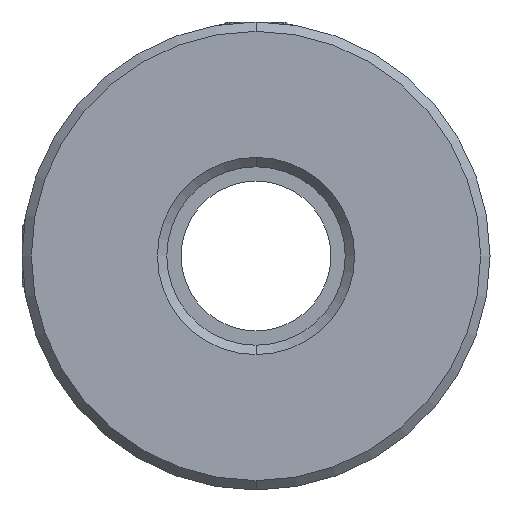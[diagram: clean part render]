
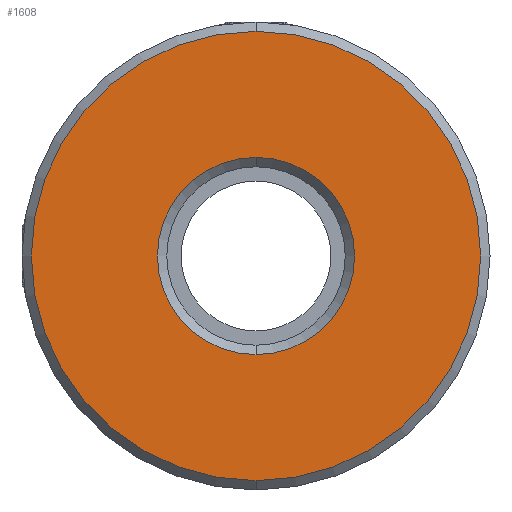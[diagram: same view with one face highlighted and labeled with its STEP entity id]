
A CAD part, front view. The second image highlights one B-rep face of the part: STEP entity #1608.
In plain terms, the highlighted planar face has unit normal (0, -1, 0).
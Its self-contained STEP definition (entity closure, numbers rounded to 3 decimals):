
#42 = EDGE_CURVE ( 'NONE', #338, #3653, #3149, .T. ) ;
#229 = DIRECTION ( 'NONE',  ( 0., 0., 1. ) ) ;
#338 = VERTEX_POINT ( 'NONE', #1149 ) ;
#518 = AXIS2_PLACEMENT_3D ( 'NONE', #2099, #2453, #3610 ) ;
#632 = CIRCLE ( 'NONE', #518, 5.265 ) ;
#666 = DIRECTION ( 'NONE',  ( 0., 1., 0. ) ) ;
#704 = FACE_BOUND ( 'NONE', #1748, .T. ) ;
#746 = VERTEX_POINT ( 'NONE', #1060 ) ;
#749 = CARTESIAN_POINT ( 'NONE',  ( -10.188, -0.277, 12.046 ) ) ;
#766 = CARTESIAN_POINT ( 'NONE',  ( -10.188, -0.277, 5.311 ) ) ;
#810 = ORIENTED_EDGE ( 'NONE', *, *, #42, .T. ) ;
#824 = EDGE_CURVE ( 'NONE', #746, #2508, #3321, .T. ) ;
#1060 = CARTESIAN_POINT ( 'NONE',  ( -10.188, -0.277, -5.219 ) ) ;
#1125 = AXIS2_PLACEMENT_3D ( 'NONE', #3010, #666, #2960 ) ;
#1149 = CARTESIAN_POINT ( 'NONE',  ( -10.188, -0.277, -11.954 ) ) ;
#1349 = AXIS2_PLACEMENT_3D ( 'NONE', #1772, #3267, #2965 ) ;
#1416 = CIRCLE ( 'NONE', #1349, 12. ) ;
#1582 = DIRECTION ( 'NONE',  ( 0., 0., 1. ) ) ;
#1608 = ADVANCED_FACE ( 'NONE', ( #1803, #704 ), #2061, .F. ) ;
#1665 = DIRECTION ( 'NONE',  ( 0., 1., 0. ) ) ;
#1748 = EDGE_LOOP ( 'NONE', ( #3558, #3291 ) ) ;
#1772 = CARTESIAN_POINT ( 'NONE',  ( -10.188, -0.277, 0.046 ) ) ;
#1803 = FACE_OUTER_BOUND ( 'NONE', #3670, .T. ) ;
#1947 = CARTESIAN_POINT ( 'NONE',  ( -10.188, -0.277, 0.046 ) ) ;
#2052 = CARTESIAN_POINT ( 'NONE',  ( -10.188, -0.277, 0.046 ) ) ;
#2061 = PLANE ( 'NONE',  #1125 ) ;
#2099 = CARTESIAN_POINT ( 'NONE',  ( -10.188, -0.277, 0.046 ) ) ;
#2438 = DIRECTION ( 'NONE',  ( 0., -1., 0. ) ) ;
#2453 = DIRECTION ( 'NONE',  ( 0., 1., 0. ) ) ;
#2508 = VERTEX_POINT ( 'NONE', #766 ) ;
#2641 = AXIS2_PLACEMENT_3D ( 'NONE', #1947, #1665, #229 ) ;
#2835 = EDGE_CURVE ( 'NONE', #3653, #338, #1416, .T. ) ;
#2960 = DIRECTION ( 'NONE',  ( 0., 0., 1. ) ) ;
#2965 = DIRECTION ( 'NONE',  ( 0., 0., 1. ) ) ;
#3010 = CARTESIAN_POINT ( 'NONE',  ( -10.188, -0.277, 0.046 ) ) ;
#3149 = CIRCLE ( 'NONE', #3649, 12. ) ;
#3267 = DIRECTION ( 'NONE',  ( 0., -1., 0. ) ) ;
#3291 = ORIENTED_EDGE ( 'NONE', *, *, #3300, .T. ) ;
#3300 = EDGE_CURVE ( 'NONE', #2508, #746, #632, .T. ) ;
#3313 = ORIENTED_EDGE ( 'NONE', *, *, #2835, .T. ) ;
#3321 = CIRCLE ( 'NONE', #2641, 5.265 ) ;
#3558 = ORIENTED_EDGE ( 'NONE', *, *, #824, .T. ) ;
#3610 = DIRECTION ( 'NONE',  ( 0., 0., 1. ) ) ;
#3649 = AXIS2_PLACEMENT_3D ( 'NONE', #2052, #2438, #1582 ) ;
#3653 = VERTEX_POINT ( 'NONE', #749 ) ;
#3670 = EDGE_LOOP ( 'NONE', ( #3313, #810 ) ) ;
